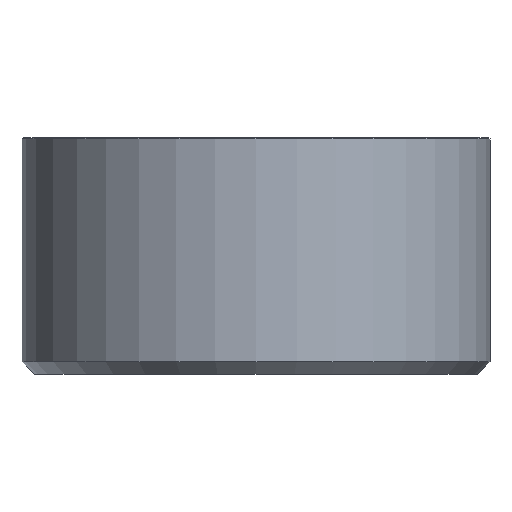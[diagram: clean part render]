
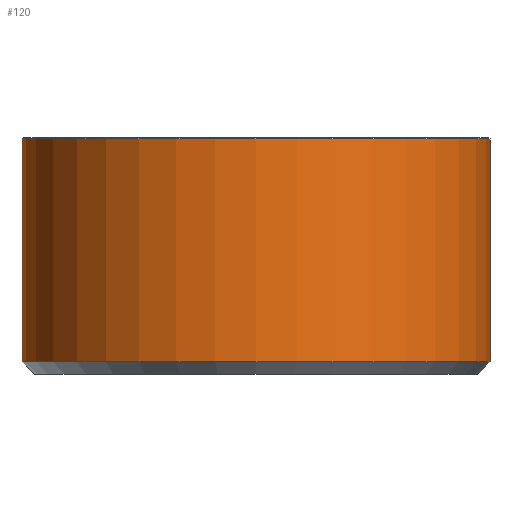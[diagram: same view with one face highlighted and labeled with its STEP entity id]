
A CAD part, front view. The second image highlights one B-rep face of the part: STEP entity #120.
In plain terms, the highlighted cylindrical face has radius 19 mm (diameter 38 mm), a full revolution.
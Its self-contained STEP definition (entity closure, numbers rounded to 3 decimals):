
#120=ADVANCED_FACE('',(#178,#179),#151,.T.);
#151=CYLINDRICAL_SURFACE('',#591,19.);
#178=FACE_BOUND('',#235,.T.);
#179=FACE_BOUND('',#236,.T.);
#235=EDGE_LOOP('',(#318));
#236=EDGE_LOOP('',(#319));
#318=ORIENTED_EDGE('',*,*,#492,.T.);
#319=ORIENTED_EDGE('',*,*,#493,.T.);
#442=VERTEX_POINT('',#881);
#443=VERTEX_POINT('',#883);
#492=EDGE_CURVE('',#442,#442,#544,.T.);
#493=EDGE_CURVE('',#443,#443,#545,.T.);
#544=CIRCLE('',#589,19.);
#545=CIRCLE('',#590,19.);
#589=AXIS2_PLACEMENT_3D('',#880,#703,#704);
#590=AXIS2_PLACEMENT_3D('',#882,#705,#706);
#591=AXIS2_PLACEMENT_3D('',#884,#707,#708);
#703=DIRECTION('',(0.,0.,-1.));
#704=DIRECTION('',(1.,0.,0.));
#705=DIRECTION('',(0.,0.,1.));
#706=DIRECTION('',(-1.,0.,0.));
#707=DIRECTION('',(0.,0.,1.));
#708=DIRECTION('',(1.,0.,0.));
#880=CARTESIAN_POINT('',(0.,0.,19.1));
#881=CARTESIAN_POINT('',(19.,0.,19.1));
#882=CARTESIAN_POINT('',(0.,0.,1.));
#883=CARTESIAN_POINT('',(-19.,0.,1.));
#884=CARTESIAN_POINT('',(0.,0.,0.));
